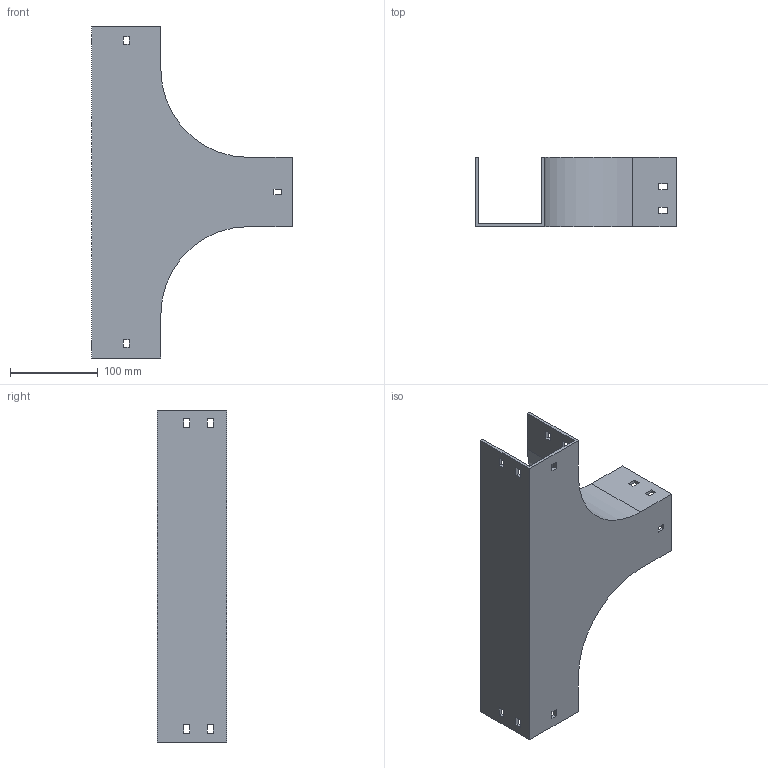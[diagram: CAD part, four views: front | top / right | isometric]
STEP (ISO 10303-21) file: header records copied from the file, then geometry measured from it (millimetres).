
FILE_DESCRIPTION (( 'STEP AP214' ), '1' );
FILE_NAME ('15B1C075.step', '2025-02-21T09:55:05', ( '' ), ( '' ), 'SwSTEP 2.0', 'SolidWorks 2023', '' );
FILE_SCHEMA (( 'AUTOMOTIVE_DESIGN' ));
Length unit declared in the file: millimetre
Products named in the file (1): 15B1C075
Bounding box: 229 x 79 x 379 mm (x, y, z)
Volume: 395206.5 mm3; surface area: 233126.8 mm2
Topology: 1 solids, 1 shells, 82 faces, 240 edges, 160 vertices
Faces by surface type: plane 78, cylinder 4
Entity records: 2755 total; most frequent: CARTESIAN_POINT 483, ORIENTED_EDGE 480, DIRECTION 414, EDGE_CURVE 240, VECTOR 232, LINE 232, VERTEX_POINT 160, EDGE_LOOP 112
